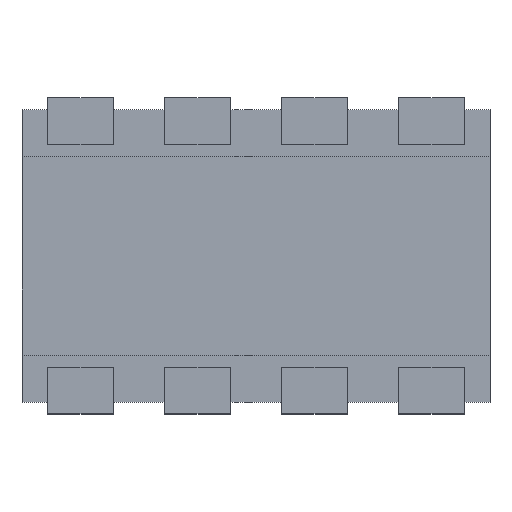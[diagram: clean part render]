
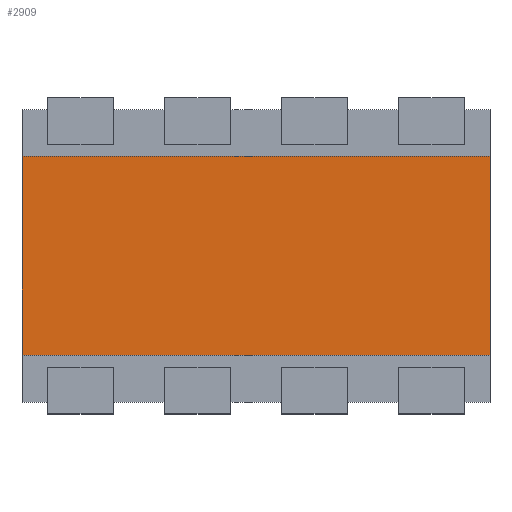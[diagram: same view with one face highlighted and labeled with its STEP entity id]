
A CAD part, top view. The second image highlights one B-rep face of the part: STEP entity #2909.
In plain terms, the highlighted planar face has unit normal (0, 0, 1).
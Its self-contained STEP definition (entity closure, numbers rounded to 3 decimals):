
#2784 = CARTESIAN_POINT ( 'NONE',  ( 1., 0.425, 0.7 ) ) ;
#2785 = VERTEX_POINT ( 'NONE', #2784 ) ;
#2792 = CARTESIAN_POINT ( 'NONE',  ( 1., -0.425, 0.7 ) ) ;
#2793 = VERTEX_POINT ( 'NONE', #2792 ) ;
#2794 = CARTESIAN_POINT ( 'NONE',  ( 1., -0.425, 0.7 ) ) ;
#2795 = DIRECTION ( 'NONE',  ( 0., 1., 0. ) ) ;
#2796 = VECTOR ( 'NONE', #2795, 1000. ) ;
#2797 = LINE ( 'NONE', #2794, #2796 ) ;
#2798 = EDGE_CURVE ( 'NONE', #2793, #2785, #2797, .T. ) ;
#2822 = CARTESIAN_POINT ( 'NONE',  ( -1., 0.425, 0.7 ) ) ;
#2823 = VERTEX_POINT ( 'NONE', #2822 ) ;
#2830 = CARTESIAN_POINT ( 'NONE',  ( -1., 0.425, 0.7 ) ) ;
#2831 = DIRECTION ( 'NONE',  ( -1., 0., 0. ) ) ;
#2832 = VECTOR ( 'NONE', #2831, 1000. ) ;
#2833 = LINE ( 'NONE', #2830, #2832 ) ;
#2834 = EDGE_CURVE ( 'NONE', #2785, #2823, #2833, .T. ) ;
#2853 = CARTESIAN_POINT ( 'NONE',  ( -1., -0.425, 0.7 ) ) ;
#2854 = VERTEX_POINT ( 'NONE', #2853 ) ;
#2861 = CARTESIAN_POINT ( 'NONE',  ( -1., -0.425, 0.7 ) ) ;
#2862 = DIRECTION ( 'NONE',  ( 0., -1., 0. ) ) ;
#2863 = VECTOR ( 'NONE', #2862, 1000. ) ;
#2864 = LINE ( 'NONE', #2861, #2863 ) ;
#2865 = EDGE_CURVE ( 'NONE', #2823, #2854, #2864, .T. ) ;
#2883 = CARTESIAN_POINT ( 'NONE',  ( -1., -0.425, 0.7 ) ) ;
#2884 = DIRECTION ( 'NONE',  ( 1., 0., 0. ) ) ;
#2885 = VECTOR ( 'NONE', #2884, 1000. ) ;
#2886 = LINE ( 'NONE', #2883, #2885 ) ;
#2887 = EDGE_CURVE ( 'NONE', #2854, #2793, #2886, .T. ) ;
#2898 = ORIENTED_EDGE ( 'NONE', *, *, #2798, .T. ) ;
#2899 = ORIENTED_EDGE ( 'NONE', *, *, #2834, .T. ) ;
#2900 = ORIENTED_EDGE ( 'NONE', *, *, #2865, .T. ) ;
#2901 = ORIENTED_EDGE ( 'NONE', *, *, #2887, .T. ) ;
#2902 = EDGE_LOOP ( 'NONE', ( #2898, #2899, #2900, #2901 ) ) ;
#2903 = FACE_OUTER_BOUND ( 'NONE', #2902, .T. ) ;
#2904 = CARTESIAN_POINT ( 'NONE',  ( 0., 0., 0.7 ) ) ;
#2905 = DIRECTION ( 'NONE',  ( 0., 0., -1. ) ) ;
#2906 = DIRECTION ( 'NONE',  ( 0., 1., 0. ) ) ;
#2907 = AXIS2_PLACEMENT_3D ( 'NONE', #2904, #2905, #2906 ) ;
#2908 = PLANE ( 'NONE', #2907 ) ;
#2909 = ADVANCED_FACE ( 'NONE', ( #2903 ), #2908, .F. ) ;
